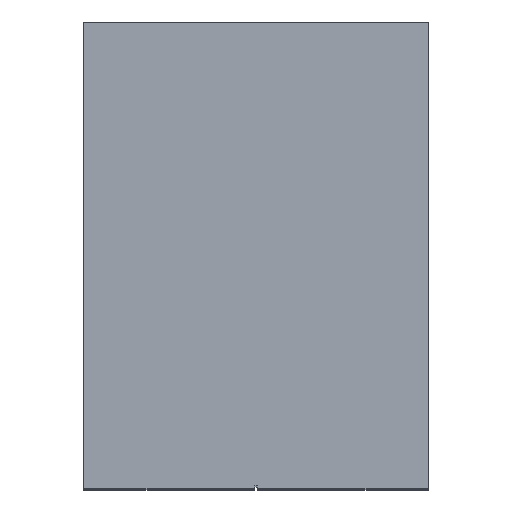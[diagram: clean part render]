
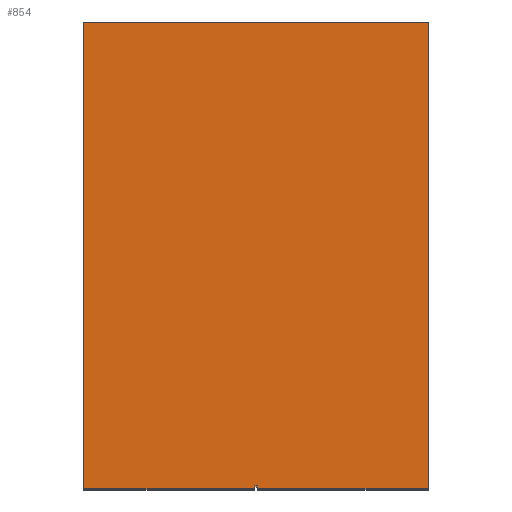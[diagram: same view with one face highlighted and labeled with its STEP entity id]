
A CAD part, top view. The second image highlights one B-rep face of the part: STEP entity #854.
In plain terms, the highlighted planar face has unit normal (0, 0, 1).
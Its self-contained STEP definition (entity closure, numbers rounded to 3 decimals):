
#60=FACE_OUTER_BOUND('',#99,.T.);
#99=EDGE_LOOP('',(#744,#745,#746,#747,#748,#749,#750,#751));
#238=VERTEX_POINT('',#2242);
#240=VERTEX_POINT('',#2245);
#251=VERTEX_POINT('',#2270);
#253=VERTEX_POINT('',#2274);
#274=VERTEX_POINT('',#2342);
#277=VERTEX_POINT('',#2358);
#280=VERTEX_POINT('',#2368);
#281=VERTEX_POINT('',#2370);
#422=EDGE_CURVE('',#240,#238,#1145,.T.);
#436=EDGE_CURVE('',#251,#253,#1159,.T.);
#459=EDGE_CURVE('',#238,#251,#1182,.T.);
#472=EDGE_CURVE('',#274,#240,#1195,.T.);
#480=EDGE_CURVE('',#253,#277,#1203,.T.);
#484=EDGE_CURVE('',#280,#277,#1207,.T.);
#485=EDGE_CURVE('',#281,#280,#1208,.T.);
#486=EDGE_CURVE('',#274,#281,#1209,.T.);
#744=ORIENTED_EDGE('',*,*,#484,.F.);
#745=ORIENTED_EDGE('',*,*,#485,.F.);
#746=ORIENTED_EDGE('',*,*,#486,.F.);
#747=ORIENTED_EDGE('',*,*,#472,.T.);
#748=ORIENTED_EDGE('',*,*,#422,.T.);
#749=ORIENTED_EDGE('',*,*,#459,.T.);
#750=ORIENTED_EDGE('',*,*,#436,.T.);
#751=ORIENTED_EDGE('',*,*,#480,.T.);
#815=PLANE('',#1495);
#854=ADVANCED_FACE('',(#60),#815,.T.);
#1145=LINE('',#2246,#1392);
#1159=LINE('',#2276,#1406);
#1182=LINE('',#2323,#1429);
#1195=LINE('',#2344,#1442);
#1203=LINE('',#2360,#1450);
#1207=LINE('',#2369,#1454);
#1208=LINE('',#2371,#1455);
#1209=LINE('',#2372,#1456);
#1392=VECTOR('',#1713,10.);
#1406=VECTOR('',#1733,10.);
#1429=VECTOR('',#1772,10.);
#1442=VECTOR('',#1791,595.);
#1450=VECTOR('',#1809,595.);
#1454=VECTOR('',#1817,1625.);
#1455=VECTOR('',#1818,1200.);
#1456=VECTOR('',#1819,1625.);
#1495=AXIS2_PLACEMENT_3D('',#2367,#1815,#1816);
#1713=DIRECTION('',(0.,1.,0.));
#1733=DIRECTION('',(0.,-1.,0.));
#1772=DIRECTION('',(1.,0.,0.));
#1791=DIRECTION('',(1.,0.,0.));
#1809=DIRECTION('',(1.,0.,0.));
#1815=DIRECTION('center_axis',(0.,0.,1.));
#1816=DIRECTION('ref_axis',(-1.,0.,0.));
#1817=DIRECTION('',(0.,-1.,0.));
#1818=DIRECTION('',(1.,0.,0.));
#1819=DIRECTION('',(0.,1.,0.));
#2242=CARTESIAN_POINT('',(595.,-1615.,2570.));
#2245=CARTESIAN_POINT('',(595.,-1625.,2570.));
#2246=CARTESIAN_POINT('',(595.,-1625.,2570.));
#2270=CARTESIAN_POINT('',(605.,-1615.,2570.));
#2274=CARTESIAN_POINT('',(605.,-1625.,2570.));
#2276=CARTESIAN_POINT('',(605.,-1615.,2570.));
#2323=CARTESIAN_POINT('',(595.,-1615.,2570.));
#2342=CARTESIAN_POINT('',(0.,-1625.,2570.));
#2344=CARTESIAN_POINT('',(0.,-1625.,2570.));
#2358=CARTESIAN_POINT('',(1200.,-1625.,2570.));
#2360=CARTESIAN_POINT('',(605.,-1625.,2570.));
#2367=CARTESIAN_POINT('Origin',(1200.,0.,2570.));
#2368=CARTESIAN_POINT('',(1200.,0.,2570.));
#2369=CARTESIAN_POINT('',(1200.,0.,2570.));
#2370=CARTESIAN_POINT('',(0.,0.,2570.));
#2371=CARTESIAN_POINT('',(0.,0.,2570.));
#2372=CARTESIAN_POINT('',(0.,-1625.,2570.));
